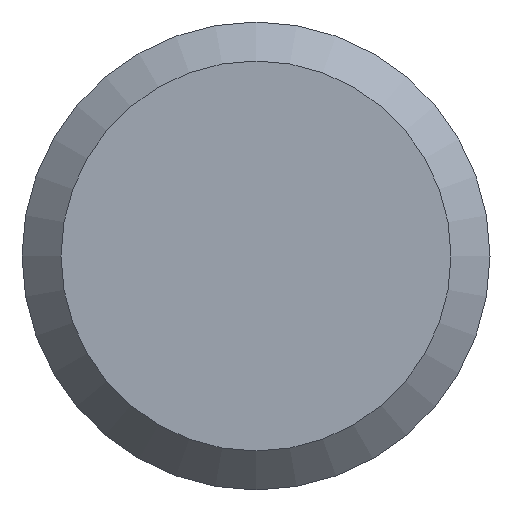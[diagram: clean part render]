
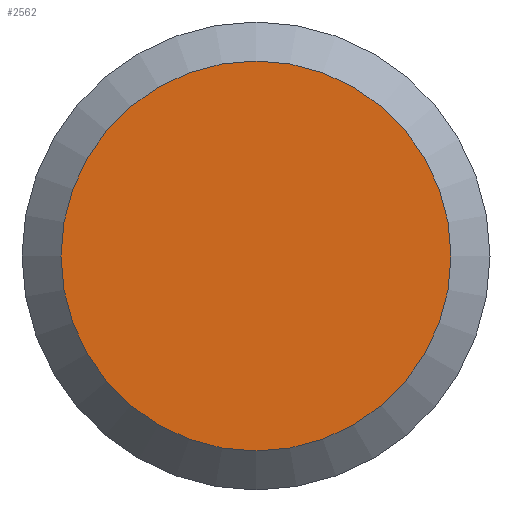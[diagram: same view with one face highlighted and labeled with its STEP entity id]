
A CAD part, left-side view. The second image highlights one B-rep face of the part: STEP entity #2562.
In plain terms, the highlighted planar face has unit normal (-1, 0, 0).
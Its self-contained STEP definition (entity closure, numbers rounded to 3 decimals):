
#940=PLANE('',#2371);
#976=ORIENTED_EDGE('',*,*,#1318,.F.);
#1146=CIRCLE('',#2370,2.5);
#1232=VERTEX_POINT('',#2108);
#1318=EDGE_CURVE('',#1232,#1232,#1146,.T.);
#1406=EDGE_LOOP('',(#976));
#1578=FACE_BOUND('',#1406,.T.);
#1754=DIRECTION('',(1.,0.,0.));
#1755=DIRECTION('',(0.,-2.5,0.));
#1756=DIRECTION('',(-1.,0.,0.));
#1757=DIRECTION('',(0.,1.,0.));
#2108=CARTESIAN_POINT('',(49.154,149.357,0.));
#2109=CARTESIAN_POINT('',(49.154,151.857,0.));
#2110=CARTESIAN_POINT('',(49.154,151.857,0.));
#2370=AXIS2_PLACEMENT_3D('',#2109,#1754,#1755);
#2371=AXIS2_PLACEMENT_3D('',#2110,#1756,#1757);
#2562=ADVANCED_FACE('',(#1578),#940,.T.);
